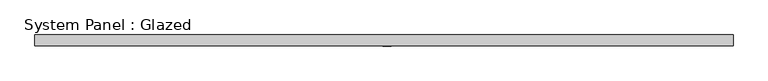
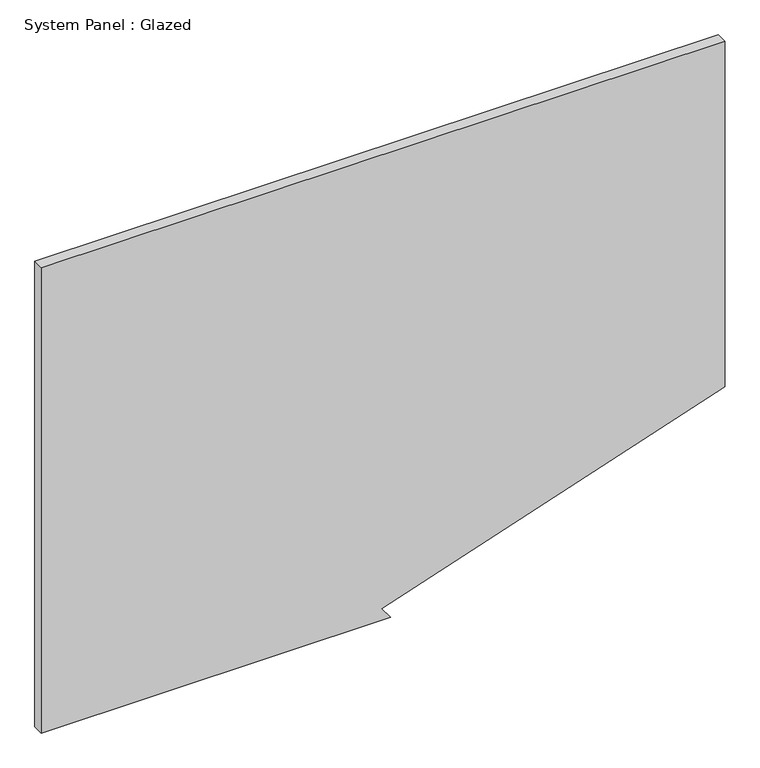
"""IFC4 building model written with IfcOpenShell, lengths in millimetres: plate geometry, System Panel : Glazed."""

from ifc_helpers import new_model, si_unit, frame, origin, place, context, project, spatial, polyline, outline, extrude, source, transform, mapped, element, save


def system_panel_glazed_3c16f4b8(model_context):
    return source(origin(), model_context, "Body", "SweptSolid", [
        extrude(outline(polyline([(0.0, -803.275), (0.0, 17.2127692), (28.4913894, -2.867694), (297.2056207, 803.275), (1155.7, 803.275), (1155.7, -803.275), (0.0, -803.275)])), frame((0.0, -44.45, 0.0), z_axis=(0.0, 1.0, 0.0), x_axis=(0.0, 0.0, 1.0)), (0.0, 0.0, 1.0), 25.4),
    ])


if __name__ == "__main__":
    model = new_model("IFC4")
    model_context = context("Model", 3, world=origin())
    ifc_project = project(units=[si_unit("LENGTHUNIT", "METRE", prefix="MILLI")], contexts=[model_context])
    site = spatial("IfcSite", under=ifc_project)
    building = spatial("IfcBuilding", under=site)
    placement = place(None, origin())
    system_panel_glazed_shape = system_panel_glazed_3c16f4b8(model_context)
    element("IfcPlate", 1, ObjectType="System Panel : Glazed", at=placement, inside=building, context=model_context, shape_type="MappedRepresentation", body=[
        mapped(system_panel_glazed_shape, transform((0.0, 0.0, 0.0), x_axis=(1.0, 0.0, 0.0), y_axis=(0.0, 1.0, 0.0), z_axis=(0.0, 0.0, 1.0))),
    ])
    save(model, "model.ifc")
